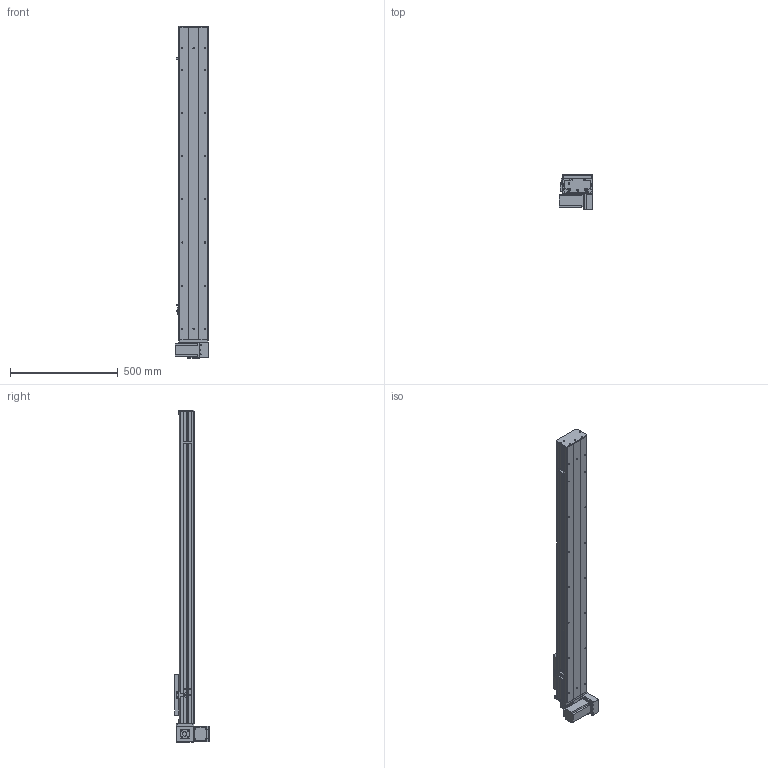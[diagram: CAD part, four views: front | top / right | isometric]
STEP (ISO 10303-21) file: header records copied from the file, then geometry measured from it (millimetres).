
FILE_DESCRIPTION (( 'STEP AP203' ), '1' );
FILE_NAME ('Y135CB-D90-S1150-BM-P400W.STEP', '2020-02-19T01:22:46', ( '微软用户' ), ( '微软中国' ), 'SwSTEP 2.0', 'SolidWorks 2017', '' );
FILE_SCHEMA (( 'CONFIG_CONTROL_DESIGN' ));
Length unit declared in the file: millimetre
Products named in the file (18): Y135C-陔俋离換覜結え-; 0B-埴倛裔啣; 5C--俋欶; 0B-源倛裔啣; C-雄赽釱--; 0B-萇儂楊擘啣; Y10B--々湍喘謫眊--666; san松下电机400不带刹车----; 00B-俋欶BM--; 5CB --掛极耜裔啣-; Y10B-耜蚾蟀諉啣----; C-詩湍揤踡え-陔; Y135CB-耜裔; Y135CB-D90-S1150-BM-P400W; 135CB--詩湍-CE; 135CB---遴掛极.-; Y100-135俋离換覜ん--; 35CB---喘謫眊楊擘啣
Assembly tree (21 placements, depth 2):
  Y135CB-D90-S1150-BM-P400W
    Y135CB-耜裔
    135CB---遴掛极.-
    35CB---喘謫眊楊擘啣
    0B-埴倛裔啣
    0B-源倛裔啣
    0B-萇儂楊擘啣
    san松下电机400不带刹车----
    5CB --掛极耜裔啣-  x2
    C-詩湍揤踡え-陔  x2
    135CB--詩湍-CE
    Y100-135俋离換覜ん--  x3
    Y135C-陔俋离換覜結え-
    5C--俋欶
    C-雄赽釱--
    Y10B--々湍喘謫眊--666
    00B-俋欶BM--
    Y10B-耜蚾蟀諉啣----
Bounding box: 157 x 163.3 x 1538 mm (x, y, z)
Volume: 4775932.4 mm3; surface area: 1872624.2 mm2
Topology: 21 solids, 21 shells, 949 faces, 2545 edges, 1686 vertices
Faces by surface type: cylinder 477, plane 456, cone 16
Entity records: 29551 total; most frequent: DIRECTION 4909, CARTESIAN_POINT 4856, ORIENTED_EDGE 4566, EDGE_CURVE 2283, AXIS2_PLACEMENT_3D 1791, VERTEX_POINT 1514, LINE 1327, VECTOR 1327
